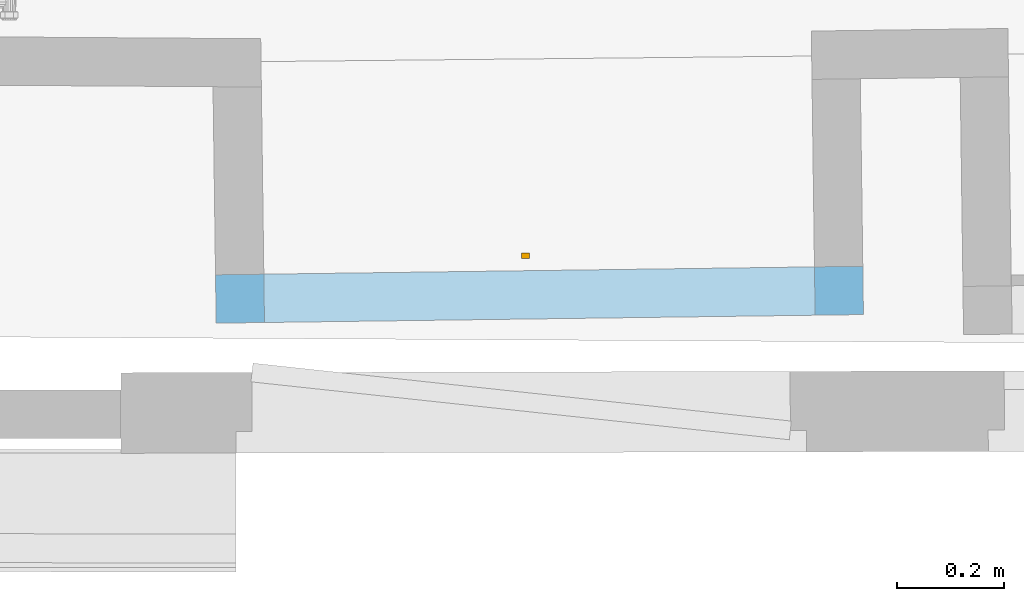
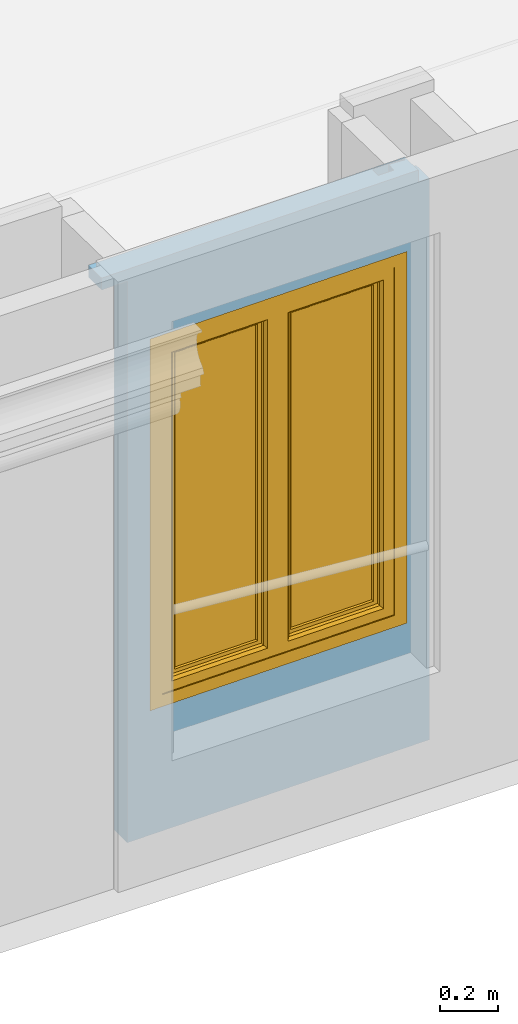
# One storey, part 51 of 72: 1 window, 1 opening, plus 1 element that does not belong to this part.
"""IFC2X3 building model written with IfcOpenShell, lengths in centimetres."""

from ifc_helpers import new_model, entity, si_unit, converted_unit, direction, frame, origin, origin_with_axes, origin_2d_with_axis, place, context, subcontext, project, spatial, polyline, rectangle, outline, extrude, clip, bounded_halfspace, faceted_brep, shape, source, transform, mapped, material, material_list, layer, layer_set, layer_usage, type_object, element, fill, save


model = new_model("IFC2X3")

# Units and contexts
model_context = context("Model", 3, precision=0.0001, world=origin(), true_north=direction((0.225632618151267, 0.974212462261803, 0.0)))
body_context = subcontext(model_context, "Body", "Model", "MODEL_VIEW")
footprint_context = subcontext(model_context, "FootPrint", "Model", "MODEL_VIEW")
profile_context = subcontext(model_context, "Profile", "Model", "MODEL_VIEW")
ifc_project = project(units=[si_unit("LENGTHUNIT", "METRE", prefix="CENTI"), si_unit("AREAUNIT", "SQUARE_METRE", prefix="CENTI"), si_unit("VOLUMEUNIT", "CUBIC_METRE", prefix="CENTI"), converted_unit("PLANEANGLEUNIT", "DEGREE", entity("IfcRatioMeasure", 0.0174532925), si_unit("PLANEANGLEUNIT", "RADIAN"), dimensions=[0, 0, 0, 0, 0, 0, 0])], contexts=[model_context])

# Site, building, storey
site_placement = place(None, origin_with_axes())
site = spatial("IfcSite", under=ifc_project, at=site_placement, Name="Default Site", CompositionType="ELEMENT")
building_placement = place(site_placement, origin_with_axes())
building = spatial("IfcBuilding", under=site, at=building_placement, Name="Default Building", CompositionType="ELEMENT")
storey_placement = place(building_placement, frame((0.0, 0.0, 853.910374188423), z_axis=(0.0, 0.0, 1.0), x_axis=(1.0, 0.0, 0.0)))
storey = spatial("IfcBuildingStorey", under=building, at=storey_placement, Name="Niveau 2", CompositionType="ELEMENT", Elevation=853.910374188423)

# Wall, opening, window
ifc_material_1 = material(Name="<aucun>")
ifc_layer = layer(ifc_material_1, 9.0)
ifc_layer_set = layer_set([ifc_layer], Name="default")
ifc_layer_usage = layer_usage(ifc_layer_set, "AXIS2", "POSITIVE", -4.5)
wall_type = type_object("IfcWallType", Name="default 90", PredefinedType="NOTDEFINED", material=ifc_layer_set)
wall_placement = place(storey_placement, frame((429.795336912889, -1021.63182955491, 1.4210854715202e-12), z_axis=(0.0, 0.0, 1.0), x_axis=(0.999912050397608, 0.0132624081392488, 0.0)))
wall = element("IfcWallStandardCase", 1, at=wall_placement, inside=storey, type_object=wall_type, material=ifc_layer_usage, Name="Enveloppe 467083", context=body_context, shape_type="Clipping", body=[
    clip(clip(clip(clip(clip(clip(extrude(rectangle(XDim=130.819437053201, YDim=8.99999999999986, at=origin_2d_with_axis()), frame((65.4097185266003, -5.32907051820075e-13, 0.0), z_axis=(0.0, 0.0, 1.0), x_axis=(1.0, -5.5875443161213e-15, 0.0)), (0.0, 0.0, 1.0), 240.000000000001), bounded_halfspace(frame((0.0, 4.49999999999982, 234.999999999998), z_axis=(0.0, 0.0, 1.0), x_axis=(1.0, 1.36696209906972e-15, 0.0)), True, frame((0.0, 4.49999999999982, 234.999999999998), z_axis=(0.0, 0.0, 1.0), x_axis=(1.0, 0.0, 0.0)), polyline([(0.0, -8.99999999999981), (0.0, -1.77635683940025e-13), (10.2363472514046, 1.77635683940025e-13), (10.2363472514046, -8.99999999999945), (0.0, -8.99999999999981)]))), bounded_halfspace(frame((119.370194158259, 3.64508552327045, 234.007564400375), z_axis=(0.0, 0.0, -1.0), x_axis=(0.0889784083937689, 0.996033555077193, 0.0)), True, frame((119.370194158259, 3.64508552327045, 234.007564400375), z_axis=(0.0, 0.0, 1.0), x_axis=(1.0, 0.0, 0.0)), polyline([(-2.08729956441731, 0.18125199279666), (8.88178419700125e-14, 0.0), (0.0145450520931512, 0.162818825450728), (-2.08729956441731, 0.18125199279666)]))), bounded_halfspace(frame((122.519967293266, 3.7804084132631, 234.007564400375), z_axis=(0.0, 0.0, -1.0), x_axis=(-0.999961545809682, 0.00876965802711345, 0.0)), True, frame((122.519967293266, 3.7804084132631, 234.007564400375), z_axis=(0.0, 0.0, 1.0), x_axis=(1.0, 0.0, 0.0)), polyline([(-3.14977313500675, -0.135322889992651), (3.08256948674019, -0.676512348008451), (3.13892442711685, -0.027528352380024), (-3.13522808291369, 0.0274959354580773), (-3.14977313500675, -0.135322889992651)]))), bounded_halfspace(frame((119.021062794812, -0.2631272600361, 234.007564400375), z_axis=(0.0, 0.0, -1.0), x_axis=(0.0889784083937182, 0.996033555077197, 0.0)), True, frame((119.021062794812, -0.2631272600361, 234.007564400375), z_axis=(0.0, 0.0, 1.0), x_axis=(1.0, 0.0, 0.0)), polyline([(-6.16503975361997, 0.0589188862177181), (8.88178419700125e-14, 0.0), (0.349131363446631, 3.90821278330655), (-1.73816820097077, 4.08946477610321), (-6.12935414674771, 4.12797545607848), (-6.16503975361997, 0.0589188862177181)]))), bounded_halfspace(frame((113.504657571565, 3.92319714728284, 234.007564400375), z_axis=(0.0, 0.0, -1.0), x_axis=(-0.0761609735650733, -0.997095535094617, 0.0)), True, frame((113.504657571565, 3.92319714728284, 234.007564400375), z_axis=(0.0, 0.0, 1.0), x_axis=(1.0, 0.0, 0.0)), polyline([(-0.00486419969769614, -0.0636818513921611), (3.77823702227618, -0.0968596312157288), (3.13162043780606, -0.0407102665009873), (0.0, 0.0), (-0.00486419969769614, -0.0636818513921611)]))), bounded_halfspace(frame((130.819437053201, 4.4999999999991, 234.999999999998), z_axis=(0.0, 0.0, -1.0), x_axis=(-1.0, 0.0, 0.0)), True, frame((130.819437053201, 4.4999999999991, 234.999999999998), z_axis=(0.0, 0.0, 1.0), x_axis=(1.0, 0.0, 0.0)), polyline([(-4.49999999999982, -8.99999999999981), (0.0, -8.99999999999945), (0.0, 0.0), (-4.49999999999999, 0.0), (-4.49999999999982, -8.99999999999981)]))),
])
opening_placement = place(wall_placement, frame((19.2363472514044, 0.0, 51.9999999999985), z_axis=(0.0, 0.0, 1.0), x_axis=(1.0, -2.96464242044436e-15, 0.0)))
cartesian_point_1 = entity("IfcCartesianPoint", [0.0, 0.0, 155.600902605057])
cartesian_point_2 = entity("IfcCartesianPoint", [102.583089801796, 4.49999999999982])
opening = element("IfcOpeningElement", 2, at=opening_placement, cuts=wall, Name="4294966440_11", ObjectType="Opening", shapes=[
    shape(body_context, "Body", "SweptSolid", [extrude(outline(polyline([(8.88178419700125e-14, 155.600902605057), (8.88178419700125e-14, -1.77635683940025e-13), (102.583089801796, -1.77635683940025e-13), (102.583089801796, 155.600902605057), (8.88178419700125e-14, 155.600902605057)])), frame((0.0, 14.5, 0.0), z_axis=(0.0, -1.0, 0.0), x_axis=(1.0, 0.0, 0.0)), (0.0, 0.0, 1.0), 29.0)]),
    shape(profile_context, "Profile", "GeometricCurveSet", [entity("IfcGeometricCurveSet", [entity("IfcPolyline", [cartesian_point_1, entity("IfcCartesianPoint", [0.0, 0.0, -1.77635683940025e-13]), entity("IfcCartesianPoint", [102.583089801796, -1.77635683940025e-13, -1.77635683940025e-13]), entity("IfcCartesianPoint", [102.583089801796, -1.77635683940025e-13, 155.600902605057]), cartesian_point_1])])]),
    shape(footprint_context, "FootPrint", "GeometricCurveSet", [entity("IfcGeometricCurveSet", [entity("IfcPolyline", [cartesian_point_2, entity("IfcCartesianPoint", [8.88178419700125e-14, 4.49999999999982]), entity("IfcCartesianPoint", [8.88178419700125e-14, -4.50000000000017]), entity("IfcCartesianPoint", [102.583089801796, -4.49999999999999]), cartesian_point_2])])]),
])
ifc_material_2 = material(Name="Transparent")
ifc_material_3 = material(Name="Jaune 255-255-0")
ifc_material_4 = material(Name="Aluminium satiné")
ifc_material_list = material_list([ifc_material_2, ifc_material_3, ifc_material_4])
window_style = type_object("IfcWindowStyle", Name="FN[R] 2VB[1V] MM", ConstructionType="NOTDEFINED", OperationType="DOUBLE_PANEL_VERTICAL", ParameterTakesPrecedence=True, Sizeable=False, material=ifc_material_list)
shared_shape = source(origin_with_axes(), body_context, "Body", "Brep", [
    faceted_brep([(-46.2915450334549, 150.600898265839, -3.99999991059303), (-46.2915450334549, 150.600898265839, 3.99999991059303), (-46.2915450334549, 5.00000007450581, 3.99999991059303), (-46.2915450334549, 5.00000007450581, -3.99999991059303), (-51.2915432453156, 155.600905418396, 3.99999991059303), (-51.2915432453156, 0.0, 3.99999991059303), (-51.2915432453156, 155.600905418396, -3.99999991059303), (-51.2915432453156, 0.0, -3.99999991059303), (46.2915450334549, 5.0000000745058, 3.99999991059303), (46.2915450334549, 5.0000000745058, -3.99999991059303), (51.2915432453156, 0.0, 3.99999991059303), (46.2915450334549, 5.00000007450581, 3.99999991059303), (51.2915432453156, 0.0, -3.99999991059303), (46.2915450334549, 5.00000007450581, -3.99999991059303), (46.2915450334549, 150.600898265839, 3.99999991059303), (46.2915450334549, 150.600898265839, -3.99999991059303), (51.2915432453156, 155.600905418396, 3.99999991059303), (51.2915432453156, 155.600905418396, -3.99999991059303)], [[[0, 1, 2, 3]], [[1, 4, 5, 2]], [[4, 6, 7, 5]], [[6, 0, 3, 7]], [[3, 2, 8, 9]], [[2, 5, 10, 11]], [[5, 7, 12, 10]], [[7, 3, 13, 12]], [[13, 11, 14, 15]], [[11, 10, 16, 14]], [[10, 12, 17, 16]], [[12, 13, 15, 17]], [[15, 14, 1, 0]], [[14, 16, 4, 1]], [[16, 17, 6, 4]], [[17, 15, 0, 6]]]),
    faceted_brep([(-42.2915458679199, 146.600902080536, -3.50000001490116), (-41.2915448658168, 145.60090303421, -2.49999901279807), (-41.2915448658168, 10.0000001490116, -2.49999901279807), (-42.2915458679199, 9.00000035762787, -3.50000001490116), (-41.291543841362, 145.60090303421, -2.5000000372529), (-41.291543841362, 145.60090303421, 3.50000001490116), (-41.291543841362, 10.0000001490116, 3.50000001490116), (-41.291543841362, 10.0000001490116, -2.5000000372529), (-46.2915450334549, 150.600898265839, 3.50000001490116), (-46.2915450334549, 5.00000007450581, 3.50000001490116), (-46.2915450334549, 150.600898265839, -3.50000001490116), (-46.2915450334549, 5.00000007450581, -3.50000001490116), (-41.291543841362, 10.0000002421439, -2.50000013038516), (-5.00000007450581, 10.0000002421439, -2.50000013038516), (-3.99999991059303, 9.00000035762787, -3.50000001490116), (-5.00000007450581, 10.0000001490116, 3.50000001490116), (-5.00000007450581, 10.0000001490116, -2.5000000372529), (-8.88178419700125e-14, 5.00000007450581, 3.50000001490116), (-8.88178419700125e-14, 5.00000007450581, -3.50000001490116), (-4.99999998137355, 10.0000001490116, -2.49999994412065), (-4.99999998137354, 145.60090303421, -2.49999994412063), (-3.99999991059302, 146.600902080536, -3.50000001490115), (-5.00000007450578, 145.60090303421, 3.50000001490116), (-5.00000007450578, 145.60090303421, -2.5000000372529), (-7.7715611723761e-14, 150.600898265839, 3.50000001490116), (-5.00000007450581, 145.60090303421, 3.50000001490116), (-7.77156118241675e-14, 150.600898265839, -3.50000001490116), (-7.77156118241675e-14, 150.600898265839, 3.50000001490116), (-3.99999991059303, 146.600902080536, -3.50000001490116), (-7.7715611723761e-14, 150.600898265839, -3.50000001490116), (-5.00000007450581, 145.600902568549, -2.50000050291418), (-41.291543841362, 145.600902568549, -2.50000050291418), (-42.2915458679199, 146.600902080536, -3.50000001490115), (-5.00000007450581, 145.60090303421, -2.5000000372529)], [[[0, 1, 2, 3]], [[4, 5, 6, 7]], [[5, 8, 9, 6]], [[8, 10, 11, 9]], [[10, 0, 3, 11]], [[3, 12, 13, 14]], [[7, 6, 15, 16]], [[6, 9, 17, 15]], [[9, 11, 18, 17]], [[11, 3, 14, 18]], [[14, 19, 20, 21]], [[16, 15, 22, 23]], [[15, 17, 24, 25]], [[17, 18, 26, 27]], [[18, 14, 28, 29]], [[28, 30, 31, 32]], [[33, 25, 5, 4]], [[25, 24, 8, 5]], [[24, 29, 10, 8]], [[29, 28, 0, 10]]]),
    faceted_brep([(-39.7915452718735, 144.100904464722, -0.999999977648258), (-39.29154551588, 143.600904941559, -0.500000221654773), (-39.29154551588, 11.9999997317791, -0.500000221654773), (-39.7915452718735, 11.5000002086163, -0.999999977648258), (-39.2915457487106, 143.600904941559, -0.499999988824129), (-39.2915457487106, 143.600904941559, 0.499999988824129), (-39.2915457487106, 11.9999997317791, 0.499999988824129), (-39.2915457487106, 11.9999997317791, -0.499999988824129), (-39.7915455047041, 144.100904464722, 0.999999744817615), (-39.7915455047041, 11.5000002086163, 0.999999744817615), (-39.7915452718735, 144.100904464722, 0.999999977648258), (-41.291543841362, 145.60090303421, 0.999999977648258), (-41.291543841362, 10.0000001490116, 0.999999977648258), (-39.7915452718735, 11.5000002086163, 0.999999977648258), (-41.291543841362, 145.60090303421, -0.999999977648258), (-41.291543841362, 10.0000001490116, -0.999999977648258), (-39.2915457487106, 11.9999999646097, -0.500000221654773), (-7.00000002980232, 11.9999999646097, -0.500000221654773), (-6.49999976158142, 11.5000002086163, -0.999999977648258), (-7.00000002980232, 11.9999997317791, 0.499999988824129), (-7.00000002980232, 11.9999997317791, -0.499999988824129), (-39.7915452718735, 11.4999999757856, 0.999999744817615), (-6.49999976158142, 11.4999999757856, 0.999999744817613), (-7.00000002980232, 11.9999997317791, 0.499999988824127), (-5.00000007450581, 10.0000001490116, 0.999999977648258), (-6.49999976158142, 11.5000002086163, 0.999999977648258), (-5.00000007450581, 10.0000001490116, -0.999999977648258), (-6.99999989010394, 11.9999997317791, -0.499999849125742), (-6.99999989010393, 143.600904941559, -0.49999984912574), (-6.49999976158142, 144.100904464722, -0.999999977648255), (-7.00000002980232, 143.600904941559, 0.499999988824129), (-7.00000002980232, 143.600904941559, -0.499999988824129), (-6.49999990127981, 11.5000002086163, 1.00000011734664), (-6.4999999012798, 144.100904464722, 1.00000011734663), (-7.00000002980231, 143.600904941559, 0.499999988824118), (-5.00000007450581, 145.60090303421, 0.999999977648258), (-6.49999976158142, 144.100904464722, 0.999999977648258), (-5.0000000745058, 145.60090303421, -0.999999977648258), (-5.0000000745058, 145.60090303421, 0.999999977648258), (-6.49999976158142, 144.100904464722, -0.999999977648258), (-5.00000007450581, 145.60090303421, -0.999999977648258), (-7.00000002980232, 143.600904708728, -0.500000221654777), (-39.2915457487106, 143.600904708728, -0.500000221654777), (-6.49999976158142, 144.100904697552, 0.999999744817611), (-39.7915452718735, 144.100904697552, 0.999999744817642), (-39.2915457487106, 143.600904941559, 0.499999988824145)], [[[0, 1, 2, 3]], [[4, 5, 6, 7]], [[5, 8, 9, 6]], [[10, 11, 12, 13]], [[11, 14, 15, 12]], [[14, 0, 3, 15]], [[3, 16, 17, 18]], [[7, 6, 19, 20]], [[6, 21, 22, 23]], [[13, 12, 24, 25]], [[12, 15, 26, 24]], [[15, 3, 18, 26]], [[18, 27, 28, 29]], [[20, 19, 30, 31]], [[19, 32, 33, 34]], [[25, 24, 35, 36]], [[24, 26, 37, 38]], [[26, 18, 39, 40]], [[39, 41, 42, 0]], [[31, 30, 5, 4]], [[30, 43, 44, 45]], [[36, 35, 11, 10]], [[35, 40, 14, 11]], [[40, 39, 0, 14]]]),
    faceted_brep([(-7.00000002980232, 143.600904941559, -0.499999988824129), (-7.00000002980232, 11.9999997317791, -0.499999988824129), (-39.2915457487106, 11.9999997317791, -0.499999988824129), (-39.2915457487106, 143.600904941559, -0.499999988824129), (-39.2915457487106, 143.600904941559, 0.499999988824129), (-39.2915457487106, 11.9999997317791, 0.499999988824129), (-7.00000002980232, 11.9999997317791, 0.499999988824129), (-7.00000002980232, 143.600904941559, 0.499999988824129), (-7.00000002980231, 143.600904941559, -0.499999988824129), (-7.00000002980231, 143.600904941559, 0.499999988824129)], [[[0, 1, 2, 3]], [[4, 5, 6, 7]], [[3, 2, 5, 4]], [[2, 1, 6, 5]], [[1, 8, 9, 6]], [[0, 3, 4, 7]]]),
    faceted_brep([(3.99999991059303, 146.600902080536, -3.50000001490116), (4.99999998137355, 145.60090303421, -2.49999994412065), (4.99999998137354, 10.0000001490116, -2.49999994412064), (3.99999991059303, 9.00000035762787, -3.50000001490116), (5.00000007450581, 145.60090303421, -2.5000000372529), (5.00000007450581, 145.60090303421, 3.50000001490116), (5.0000000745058, 10.0000001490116, 3.50000001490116), (5.0000000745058, 10.0000001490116, -2.5000000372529), (-7.7715611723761e-14, 150.600898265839, 3.50000001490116), (-8.88178419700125e-14, 5.00000007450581, 3.50000001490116), (5.00000007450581, 10.0000001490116, 3.50000001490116), (-7.7715611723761e-14, 150.600898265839, -3.50000001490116), (-8.8817841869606e-14, 5.00000007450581, -3.50000001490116), (-8.8817841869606e-14, 5.00000007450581, 3.50000001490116), (-8.88178419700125e-14, 5.00000007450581, -3.50000001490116), (5.00000007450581, 10.0000002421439, -2.50000013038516), (41.291543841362, 10.0000002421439, -2.50000013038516), (42.2915458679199, 9.00000035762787, -3.50000001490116), (5.00000007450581, 10.0000001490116, -2.5000000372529), (41.291543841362, 10.0000001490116, 3.50000001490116), (41.291543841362, 10.0000001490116, -2.5000000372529), (46.2915450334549, 5.00000007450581, 3.50000001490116), (46.2915450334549, 5.00000007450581, -3.50000001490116), (41.2915448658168, 10.0000001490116, -2.49999901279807), (41.2915448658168, 145.60090303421, -2.49999901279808), (42.2915458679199, 146.600902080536, -3.50000001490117), (41.291543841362, 145.60090303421, 3.50000001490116), (41.291543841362, 145.60090303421, -2.5000000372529), (46.2915450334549, 150.600898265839, 3.50000001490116), (46.2915450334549, 150.600898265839, -3.50000001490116), (42.2915458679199, 146.600902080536, -3.50000001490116), (41.291543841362, 145.600902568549, -2.5000005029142), (5.00000007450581, 145.600902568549, -2.5000005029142), (3.99999991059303, 146.600902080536, -3.50000001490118)], [[[0, 1, 2, 3]], [[4, 5, 6, 7]], [[5, 8, 9, 10]], [[8, 11, 12, 13]], [[11, 0, 3, 14]], [[3, 15, 16, 17]], [[18, 10, 19, 20]], [[10, 9, 21, 19]], [[9, 14, 22, 21]], [[14, 3, 17, 22]], [[17, 23, 24, 25]], [[20, 19, 26, 27]], [[19, 21, 28, 26]], [[21, 22, 29, 28]], [[22, 17, 30, 29]], [[30, 31, 32, 33]], [[27, 26, 5, 4]], [[26, 28, 8, 5]], [[28, 29, 11, 8]], [[29, 30, 0, 11]]]),
    faceted_brep([(4.50000017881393, 79.8004508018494, 3.50000001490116), (4.50000017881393, 75.8004486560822, 3.50000001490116), (0.499999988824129, 75.8004486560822, 3.50000001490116), (0.499999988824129, 79.8004508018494, 3.50000001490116), (0.499999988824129, 79.8004508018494, 4.30000014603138), (0.499999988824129, 75.8004486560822, 4.30000014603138), (4.50000017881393, 75.8004486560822, 4.30000014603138), (4.50000017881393, 79.8004508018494, 4.30000014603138)], [[[0, 1, 2, 3]], [[4, 5, 6, 7]], [[3, 2, 5, 4]], [[2, 1, 6, 5]], [[1, 0, 7, 6]], [[0, 3, 4, 7]]]),
    faceted_brep([(3.24999988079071, 78.3004522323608, 4.30000014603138), (3.24999988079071, 77.3004531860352, 4.30000014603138), (1.75000000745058, 77.3004531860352, 4.30000014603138), (1.75000000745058, 78.3004522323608, 4.30000014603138), (1.75000000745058, 78.3004522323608, 8.29999968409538), (1.75000000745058, 77.3004528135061, 7.30000026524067), (3.24999988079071, 77.3004528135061, 7.30000026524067), (3.24999988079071, 78.3004522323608, 8.29999968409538), (1.75000000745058, 77.3004531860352, 7.29999989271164), (3.24999988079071, 77.3004531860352, 7.29999989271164)], [[[0, 1, 2, 3]], [[4, 5, 6, 7]], [[3, 2, 8, 4]], [[2, 1, 9, 8]], [[1, 0, 7, 9]], [[0, 3, 4, 7]]]),
    faceted_brep([(3.24999988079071, 78.3004522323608, 8.29999968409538), (3.24999988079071, 77.3004528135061, 7.30000026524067), (1.75000000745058, 77.3004528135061, 7.30000026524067), (1.75000000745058, 78.3004522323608, 8.29999968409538), (1.75000000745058, 65.300452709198, 8.29999968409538), (1.75000000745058, 65.300452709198, 7.29999989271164), (3.24999988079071, 65.300452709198, 7.29999989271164), (3.24999988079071, 65.300452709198, 8.29999968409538), (1.75000000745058, 77.3004531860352, 7.29999989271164), (3.24999988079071, 77.3004531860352, 7.29999989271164)], [[[0, 1, 2, 3]], [[4, 5, 6, 7]], [[3, 8, 5, 4]], [[8, 9, 6, 5]], [[9, 0, 7, 6]], [[0, 3, 4, 7]]]),
    faceted_brep([(6.49999976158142, 144.100904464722, -0.999999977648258), (6.99999989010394, 143.600904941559, -0.499999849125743), (6.99999989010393, 11.9999997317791, -0.499999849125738), (6.49999976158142, 11.5000002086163, -0.999999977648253), (7.00000002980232, 143.600904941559, -0.499999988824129), (7.00000002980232, 143.600904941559, 0.499999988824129), (7.00000002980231, 11.9999997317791, 0.499999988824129), (7.00000002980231, 11.9999997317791, -0.499999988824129), (6.49999990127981, 144.100904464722, 1.00000011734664), (6.4999999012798, 11.5000002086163, 1.00000011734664), (7.00000002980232, 11.9999997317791, 0.499999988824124), (6.49999976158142, 144.100904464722, 0.999999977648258), (5.00000007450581, 145.60090303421, 0.999999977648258), (5.00000007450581, 10.0000001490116, 0.999999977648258), (6.49999976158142, 11.5000002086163, 0.999999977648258), (5.00000007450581, 145.60090303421, -0.999999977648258), (5.0000000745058, 10.0000001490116, -0.999999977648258), (5.0000000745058, 10.0000001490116, 0.999999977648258), (6.49999976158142, 11.5000002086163, -0.999999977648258), (5.00000007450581, 10.0000001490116, -0.999999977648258), (7.00000002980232, 11.9999999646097, -0.500000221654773), (39.2915457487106, 11.9999999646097, -0.500000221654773), (39.7915452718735, 11.5000002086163, -0.999999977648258), (7.00000002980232, 11.9999997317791, -0.499999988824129), (7.00000002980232, 11.9999997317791, 0.499999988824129), (39.2915457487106, 11.9999997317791, 0.499999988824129), (39.2915457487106, 11.9999997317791, -0.499999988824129), (6.49999976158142, 11.4999999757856, 0.999999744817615), (39.7915452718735, 11.4999999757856, 0.999999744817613), (39.2915457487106, 11.9999997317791, 0.499999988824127), (41.291543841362, 10.0000001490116, 0.999999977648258), (39.7915452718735, 11.5000002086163, 0.999999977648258), (41.291543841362, 10.0000001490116, -0.999999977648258), (39.29154551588, 11.9999997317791, -0.500000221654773), (39.29154551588, 143.600904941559, -0.500000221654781), (39.7915452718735, 144.100904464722, -0.999999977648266), (39.2915457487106, 143.600904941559, 0.499999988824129), (39.2915457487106, 143.600904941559, -0.499999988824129), (39.7915455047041, 11.5000002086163, 0.999999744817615), (39.7915455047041, 144.100904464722, 0.999999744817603), (39.2915457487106, 143.600904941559, 0.499999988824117), (41.291543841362, 145.60090303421, 0.999999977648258), (39.7915452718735, 144.100904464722, 0.999999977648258), (41.291543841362, 145.60090303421, -0.999999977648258), (39.7915452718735, 144.100904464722, -0.999999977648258), (39.2915457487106, 143.600904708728, -0.500000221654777), (7.00000002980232, 143.600904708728, -0.500000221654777), (39.7915452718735, 144.100904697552, 0.999999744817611), (6.49999976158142, 144.100904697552, 0.999999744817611)], [[[0, 1, 2, 3]], [[4, 5, 6, 7]], [[5, 8, 9, 10]], [[11, 12, 13, 14]], [[12, 15, 16, 17]], [[15, 0, 18, 19]], [[18, 20, 21, 22]], [[23, 24, 25, 26]], [[24, 27, 28, 29]], [[14, 13, 30, 31]], [[13, 19, 32, 30]], [[19, 18, 22, 32]], [[22, 33, 34, 35]], [[26, 25, 36, 37]], [[25, 38, 39, 40]], [[31, 30, 41, 42]], [[30, 32, 43, 41]], [[32, 22, 44, 43]], [[44, 45, 46, 0]], [[37, 36, 5, 4]], [[36, 47, 48, 5]], [[42, 41, 12, 11]], [[41, 43, 15, 12]], [[43, 44, 0, 15]]]),
    faceted_brep([(39.2915457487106, 143.600904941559, -0.499999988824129), (39.2915457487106, 11.9999997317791, -0.499999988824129), (7.00000002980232, 11.9999997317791, -0.499999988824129), (7.00000002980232, 143.600904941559, -0.499999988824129), (7.00000002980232, 143.600904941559, 0.499999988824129), (7.00000002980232, 11.9999997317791, 0.499999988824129), (39.2915457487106, 11.9999997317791, 0.499999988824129), (39.2915457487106, 143.600904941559, 0.499999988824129), (7.00000002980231, 11.9999997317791, -0.499999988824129), (7.00000002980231, 11.9999997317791, 0.499999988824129)], [[[0, 1, 2, 3]], [[4, 5, 6, 7]], [[3, 8, 9, 4]], [[2, 1, 6, 5]], [[1, 0, 7, 6]], [[0, 3, 4, 7]]]),
])
window_placement = place(opening_placement, frame((-1.13686837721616e-13, -4.5, 0.0), z_axis=(0.0, 0.0, 1.0), x_axis=(1.0, 0.0, 0.0)))
window = element("IfcWindow", 3, at=window_placement, inside=storey, type_object=window_style, material=ifc_material_list, Name="Fenêtre 152973", OverallHeight=155.600902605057, OverallWidth=102.583089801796, context=body_context, shape_type="MappedRepresentation", body=[
    mapped(shared_shape, transform((51.2915449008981, 4.00000000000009, 1.77635683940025e-13), x_axis=(-1.0, 0.0, 0.0), y_axis=(0.0, 0.0, 1.0), z_axis=(0.0, 1.0, 0.0), scale=1.0, scale2=1.0, scale3=1.0, uniform=False)),
])
fill(opening, window)

save(model, "model.ifc")
